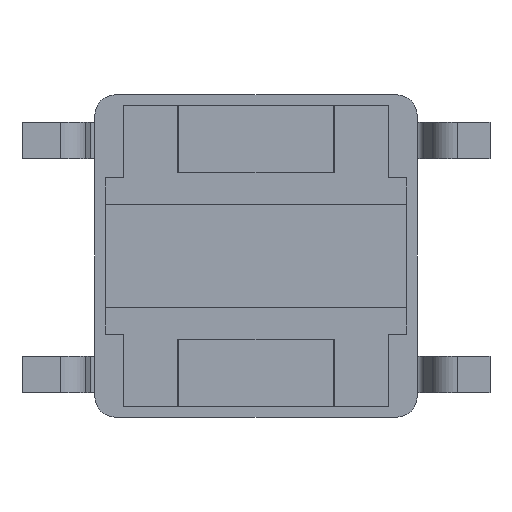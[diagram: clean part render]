
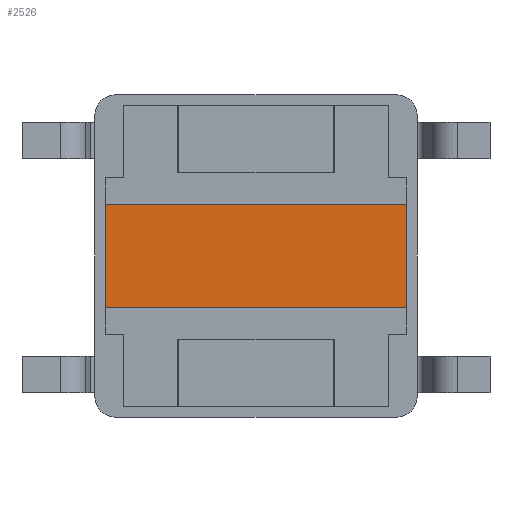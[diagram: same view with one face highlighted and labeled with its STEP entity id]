
A CAD part, front view. The second image highlights one B-rep face of the part: STEP entity #2526.
In plain terms, the highlighted planar face has unit normal (0, -1, 0).
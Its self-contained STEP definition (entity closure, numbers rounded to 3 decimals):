
#426 = CARTESIAN_POINT ( 'NONE',  ( 2.9, -0.5, -1. ) ) ;
#1181 = VERTEX_POINT ( 'NONE', #426 ) ;
#2091 = VERTEX_POINT ( 'NONE', #6926 ) ;
#2101 = VERTEX_POINT ( 'NONE', #6972 ) ;
#2103 = EDGE_CURVE ( 'NONE', #2104, #2101, #6971, .T. ) ;
#2104 = VERTEX_POINT ( 'NONE', #6967 ) ;
#2131 = EDGE_CURVE ( 'NONE', #1181, #2091, #6982, .T. ) ;
#2526 = ADVANCED_FACE ( 'NONE', ( #7666 ), #7665, .F. ) ;
#2527 = EDGE_LOOP ( 'NONE', ( #2703, #2705, #2706, #2556 ) ) ;
#2555 = EDGE_CURVE ( 'NONE', #1181, #2101, #7743, .T. ) ;
#2556 = ORIENTED_EDGE ( 'NONE', *, *, #2131, .T. ) ;
#2703 = ORIENTED_EDGE ( 'NONE', *, *, #2704, .F. ) ;
#2704 = EDGE_CURVE ( 'NONE', #2104, #2091, #8019, .T. ) ;
#2705 = ORIENTED_EDGE ( 'NONE', *, *, #2103, .T. ) ;
#2706 = ORIENTED_EDGE ( 'NONE', *, *, #2555, .F. ) ;
#6926 = CARTESIAN_POINT ( 'NONE',  ( 2.9, -0.5, 1. ) ) ;
#6967 = CARTESIAN_POINT ( 'NONE',  ( -2.9, -0.5, 1. ) ) ;
#6968 = DIRECTION ( 'NONE',  ( 0., 0., -1. ) ) ;
#6969 = VECTOR ( 'NONE', #6968, 1000. ) ;
#6970 = CARTESIAN_POINT ( 'NONE',  ( -2.9, -0.5, 0. ) ) ;
#6971 = LINE ( 'NONE', #6970, #6969 ) ;
#6972 = CARTESIAN_POINT ( 'NONE',  ( -2.9, -0.5, -1. ) ) ;
#6979 = DIRECTION ( 'NONE',  ( 0., 0., 1. ) ) ;
#6980 = VECTOR ( 'NONE', #6979, 1000. ) ;
#6981 = CARTESIAN_POINT ( 'NONE',  ( 2.9, -0.5, 0. ) ) ;
#6982 = LINE ( 'NONE', #6981, #6980 ) ;
#7660 = DIRECTION ( 'NONE',  ( 0., 0., 1. ) ) ;
#7661 = DIRECTION ( 'NONE',  ( 0., 1., 0. ) ) ;
#7662 = AXIS2_PLACEMENT_3D ( 'NONE', #7664, #7661, #7660 ) ;
#7664 = CARTESIAN_POINT ( 'NONE',  ( -2.9, -0.5, -1. ) ) ;
#7665 = PLANE ( 'NONE',  #7662 ) ;
#7666 = FACE_OUTER_BOUND ( 'NONE', #2527, .T. ) ;
#7739 = DIRECTION ( 'NONE',  ( -1., 0., 0. ) ) ;
#7740 = VECTOR ( 'NONE', #7739, 1000. ) ;
#7742 = CARTESIAN_POINT ( 'NONE',  ( 0., -0.5, -1. ) ) ;
#7743 = LINE ( 'NONE', #7742, #7740 ) ;
#8016 = DIRECTION ( 'NONE',  ( 1., 0., 0. ) ) ;
#8017 = VECTOR ( 'NONE', #8016, 1000. ) ;
#8018 = CARTESIAN_POINT ( 'NONE',  ( 0., -0.5, 1. ) ) ;
#8019 = LINE ( 'NONE', #8018, #8017 ) ;
